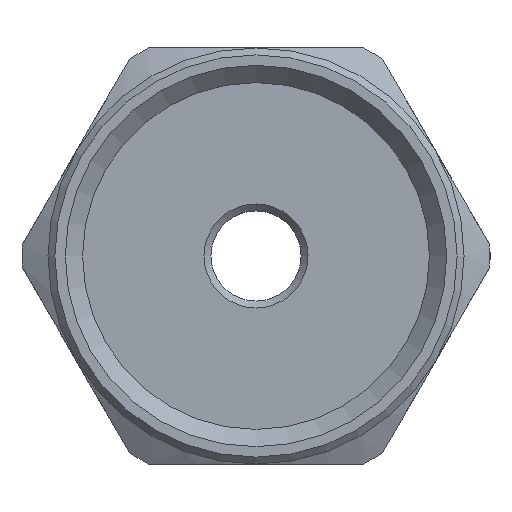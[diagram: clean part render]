
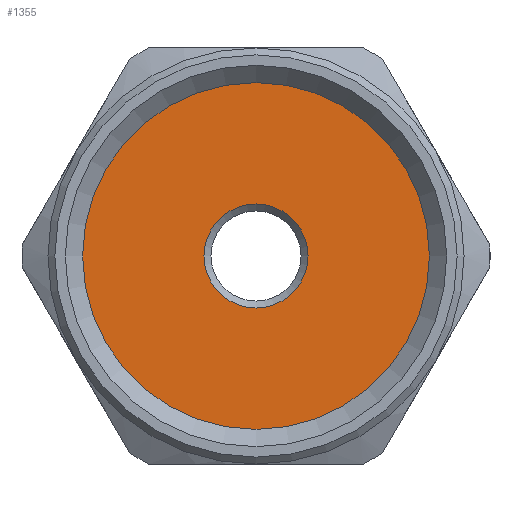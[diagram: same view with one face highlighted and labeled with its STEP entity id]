
A CAD part, left-side view. The second image highlights one B-rep face of the part: STEP entity #1355.
In plain terms, the highlighted planar face has unit normal (-1, 0, 0).
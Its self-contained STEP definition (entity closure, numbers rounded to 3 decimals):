
#1355=ADVANCED_FACE('',(#3745,#3746),#3747,.F.);
#3745=FACE_BOUND('',#7046,.T.);
#3746=FACE_OUTER_BOUND('',#7047,.T.);
#3747=PLANE('',#7048);
#7046=EDGE_LOOP('',(#13776));
#7047=EDGE_LOOP('',(#13777));
#7048=AXIS2_PLACEMENT_3D('',#13778,#13779,#13780);
#13776=ORIENTED_EDGE('',*,*,#17573,.T.);
#13777=ORIENTED_EDGE('',*,*,#17581,.F.);
#13778=CARTESIAN_POINT('',(0.9,0.,0.));
#13779=DIRECTION('',(1.0,0.0,-0.0));
#13780=DIRECTION('',(0.0,0.0,1.0));
#17573=EDGE_CURVE('',#17967,#17967,#17968,.T.);
#17581=EDGE_CURVE('',#17980,#17980,#17981,.T.);
#17967=VERTEX_POINT('',#18417);
#17968=CIRCLE('',#18418,1.5);
#17980=VERTEX_POINT('',#18430);
#17981=CIRCLE('',#18431,5.0);
#18417=CARTESIAN_POINT('',(0.9,0.0,-1.5));
#18418=AXIS2_PLACEMENT_3D('',#18806,#18807,#18808);
#18430=CARTESIAN_POINT('',(0.9,0.,5.0));
#18431=AXIS2_PLACEMENT_3D('',#18821,#18822,#18823);
#18806=CARTESIAN_POINT('',(0.9,0.0,0.0));
#18807=DIRECTION('',(1.0,0.0,0.0));
#18808=DIRECTION('',(0.0,0.0,-1.0));
#18821=CARTESIAN_POINT('',(0.9,0.,0.));
#18822=DIRECTION('',(1.0,0.0,-0.0));
#18823=DIRECTION('',(0.0,0.0,1.0));
